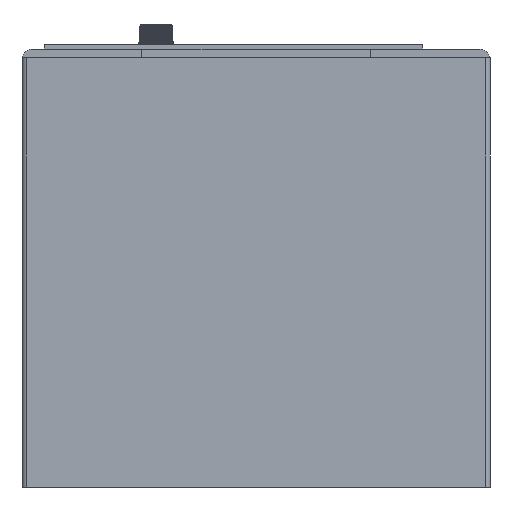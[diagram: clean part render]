
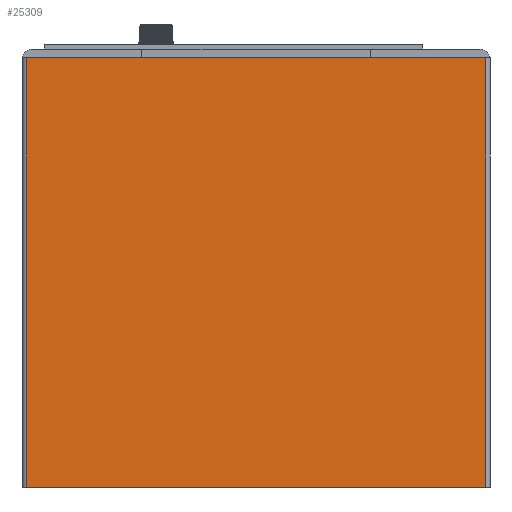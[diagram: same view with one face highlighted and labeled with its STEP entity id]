
A CAD part, front view. The second image highlights one B-rep face of the part: STEP entity #25309.
In plain terms, the highlighted planar face has unit normal (0, -1, 0).
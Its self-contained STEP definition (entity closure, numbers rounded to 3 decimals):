
#1545=PLANE('',#27235);
#2586=FACE_OUTER_BOUND('',#4484,.T.);
#4484=EDGE_LOOP('',(#18184,#18185,#18186,#18187));
#6501=LINE('',#36616,#8713);
#6506=LINE('',#36640,#8718);
#6508=LINE('',#36652,#8720);
#6509=LINE('',#36654,#8721);
#8713=VECTOR('',#29801,10.);
#8718=VECTOR('',#29826,10.);
#8720=VECTOR('',#29840,10.);
#8721=VECTOR('',#29843,10.);
#12003=VERTEX_POINT('',#36613);
#12004=VERTEX_POINT('',#36615);
#12012=VERTEX_POINT('',#36637);
#12013=VERTEX_POINT('',#36639);
#14565=EDGE_CURVE('',#12003,#12004,#6501,.T.);
#14577=EDGE_CURVE('',#12012,#12013,#6506,.T.);
#14584=EDGE_CURVE('',#12004,#12012,#6508,.T.);
#14585=EDGE_CURVE('',#12013,#12003,#6509,.T.);
#18184=ORIENTED_EDGE('',*,*,#14584,.F.);
#18185=ORIENTED_EDGE('',*,*,#14565,.F.);
#18186=ORIENTED_EDGE('',*,*,#14585,.F.);
#18187=ORIENTED_EDGE('',*,*,#14577,.F.);
#25309=ADVANCED_FACE('',(#2586),#1545,.T.);
#27235=AXIS2_PLACEMENT_3D('',#36653,#29841,#29842);
#29801=DIRECTION('',(-1.,0.,0.));
#29826=DIRECTION('',(1.,0.,0.));
#29840=DIRECTION('',(0.,0.,1.));
#29841=DIRECTION('center_axis',(0.,-1.,0.));
#29842=DIRECTION('ref_axis',(0.,0.,-1.));
#29843=DIRECTION('',(0.,0.,-1.));
#36613=CARTESIAN_POINT('',(105.5,0.,0.));
#36615=CARTESIAN_POINT('',(-105.5,0.,0.));
#36616=CARTESIAN_POINT('',(0.,0.,0.));
#36637=CARTESIAN_POINT('',(-105.5,0.,197.6));
#36639=CARTESIAN_POINT('',(105.5,0.,197.6));
#36640=CARTESIAN_POINT('',(0.,0.,197.6));
#36652=CARTESIAN_POINT('',(-105.5,0.,148.2));
#36653=CARTESIAN_POINT('Origin',(0.,0.,197.6));
#36654=CARTESIAN_POINT('',(105.5,0.,148.2));
